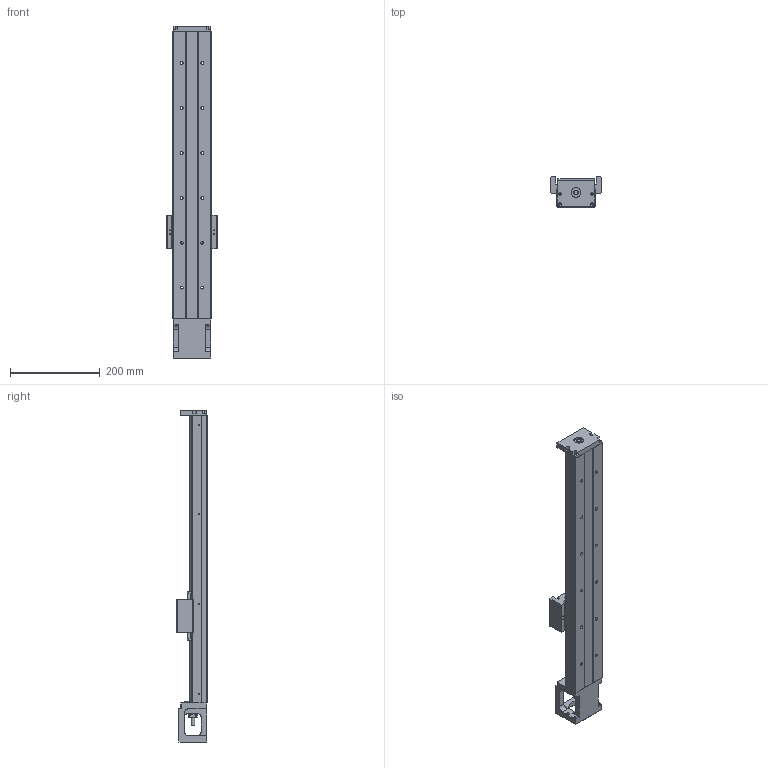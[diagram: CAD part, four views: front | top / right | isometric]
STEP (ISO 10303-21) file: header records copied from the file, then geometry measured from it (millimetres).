
FILE_DESCRIPTION(/* description */ (''),/* implementation_level */ '2;1');
FILE_NAME(/* name */ '46L-640.stp',/* time_stamp */ '2019-09-05T13:23:23+08:00',/* author */ (''),/* organization */ (''),/* preprocessor_version */ 'ST-DEVELOPER v16',/* originating_system */ 'SIEMENS PLM Software NX 10.0',/* authorisation */ '');
FILE_SCHEMA (('AP203_CONFIGURATION_CONTROLLED_3D_DESIGN_OF_MECHANICAL_PARTS_AND_ASSEMBLIES_MIM_LF { 1 0 10303 403 2 1 2}'));
Length unit declared in the file: millimetre
Products named in the file (1): 0154B620C536ce6m
Bounding box: 112 x 68 x 740 mm (x, y, z)
Volume: 1679102.3 mm3; surface area: 362056.7 mm2
Topology: 6 solids, 14 shells, 699 faces, 1818 edges, 1191 vertices
Faces by surface type: plane 330, cylinder 247, cone 61, bspline 53, torus 8
Full cylindrical faces by diameter (mm): 2.11 x4, 2.15 x8, 2.42 x8, 2.5 x4, 3 x6, 3.2 x4, 3.3 x12, 3.4 x8, 4.2 x4, 4.5 x8, 5 x14, 6 x8, 6.35 x2, 6.6 x12, 8 x1, 9.6 x1, 10 x3, 11 x12, 12 x1, 14.95 x2, 15 x1, 16 x2, 22 x3, 27.5 x1, 44 x1, 50 x1
Entity records: 29069 total; most frequent: CARTESIAN_POINT 13285, ORIENTED_EDGE 3122, DIRECTION 3035, EDGE_CURVE 1561, VERTEX_POINT 1118, AXIS2_PLACEMENT_3D 1118, EDGE_LOOP 987, LINE 799
